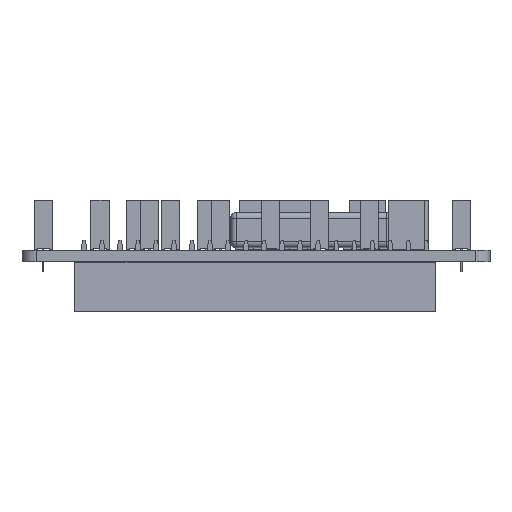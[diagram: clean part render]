
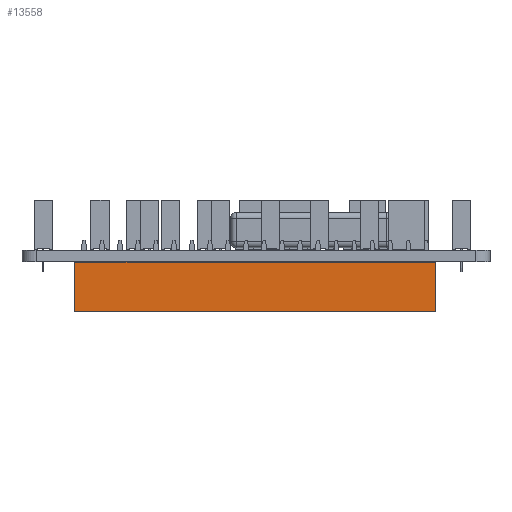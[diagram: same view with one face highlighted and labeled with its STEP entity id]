
A CAD part, left-side view. The second image highlights one B-rep face of the part: STEP entity #13558.
In plain terms, the highlighted planar face has unit normal (-1, 0, 0).
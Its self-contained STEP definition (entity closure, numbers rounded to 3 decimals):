
#152 = PLANE('',#153);
#153 = AXIS2_PLACEMENT_3D('',#154,#155,#156);
#154 = CARTESIAN_POINT('',(-3.81,-49.53,0.));
#155 = DIRECTION('',(0.,1.,0.));
#156 = DIRECTION('',(1.,0.,0.));
#180 = PLANE('',#181);
#181 = AXIS2_PLACEMENT_3D('',#182,#183,#184);
#182 = CARTESIAN_POINT('',(1.27,-49.53,7.));
#183 = DIRECTION('',(-0.,0.,-1.));
#184 = DIRECTION('',(0.,-1.,-0.));
#208 = PLANE('',#209);
#209 = AXIS2_PLACEMENT_3D('',#210,#211,#212);
#210 = CARTESIAN_POINT('',(1.27,1.27,0.));
#211 = DIRECTION('',(0.,-1.,0.));
#212 = DIRECTION('',(-1.,0.,0.));
#250 = VERTEX_POINT('',#251);
#251 = CARTESIAN_POINT('',(-3.81,-49.53,0.));
#267 = PLANE('',#268);
#268 = AXIS2_PLACEMENT_3D('',#269,#270,#271);
#269 = CARTESIAN_POINT('',(1.27,-49.53,0.));
#270 = DIRECTION('',(-0.,0.,-1.));
#271 = DIRECTION('',(0.,-1.,-0.));
#279 = EDGE_CURVE('',#250,#280,#282,.T.);
#280 = VERTEX_POINT('',#281);
#281 = CARTESIAN_POINT('',(-3.81,-49.53,7.));
#282 = SURFACE_CURVE('',#283,(#287,#294),.PCURVE_S1.);
#283 = LINE('',#284,#285);
#284 = CARTESIAN_POINT('',(-3.81,-49.53,0.));
#285 = VECTOR('',#286,1.);
#286 = DIRECTION('',(0.,0.,1.));
#287 = PCURVE('',#152,#288);
#288 = DEFINITIONAL_REPRESENTATION('',(#289),#293);
#289 = LINE('',#290,#291);
#290 = CARTESIAN_POINT('',(0.,0.));
#291 = VECTOR('',#292,1.);
#292 = DIRECTION('',(0.,-1.));
#293 = ( GEOMETRIC_REPRESENTATION_CONTEXT(2) 
PARAMETRIC_REPRESENTATION_CONTEXT() REPRESENTATION_CONTEXT('2D SPACE',''
  ) );
#294 = PCURVE('',#295,#300);
#295 = PLANE('',#296);
#296 = AXIS2_PLACEMENT_3D('',#297,#298,#299);
#297 = CARTESIAN_POINT('',(-3.81,1.27,0.));
#298 = DIRECTION('',(1.,0.,0.));
#299 = DIRECTION('',(0.,-1.,0.));
#300 = DEFINITIONAL_REPRESENTATION('',(#301),#305);
#301 = LINE('',#302,#303);
#302 = CARTESIAN_POINT('',(50.8,0.));
#303 = VECTOR('',#304,1.);
#304 = DIRECTION('',(0.,-1.));
#305 = ( GEOMETRIC_REPRESENTATION_CONTEXT(2) 
PARAMETRIC_REPRESENTATION_CONTEXT() REPRESENTATION_CONTEXT('2D SPACE',''
  ) );
#462 = VERTEX_POINT('',#463);
#463 = CARTESIAN_POINT('',(-3.81,1.27,7.));
#484 = EDGE_CURVE('',#485,#462,#487,.T.);
#485 = VERTEX_POINT('',#486);
#486 = CARTESIAN_POINT('',(-3.81,1.27,0.));
#487 = SURFACE_CURVE('',#488,(#492,#499),.PCURVE_S1.);
#488 = LINE('',#489,#490);
#489 = CARTESIAN_POINT('',(-3.81,1.27,0.));
#490 = VECTOR('',#491,1.);
#491 = DIRECTION('',(0.,0.,1.));
#492 = PCURVE('',#208,#493);
#493 = DEFINITIONAL_REPRESENTATION('',(#494),#498);
#494 = LINE('',#495,#496);
#495 = CARTESIAN_POINT('',(5.08,0.));
#496 = VECTOR('',#497,1.);
#497 = DIRECTION('',(0.,-1.));
#498 = ( GEOMETRIC_REPRESENTATION_CONTEXT(2) 
PARAMETRIC_REPRESENTATION_CONTEXT() REPRESENTATION_CONTEXT('2D SPACE',''
  ) );
#499 = PCURVE('',#295,#500);
#500 = DEFINITIONAL_REPRESENTATION('',(#501),#505);
#501 = LINE('',#502,#503);
#502 = CARTESIAN_POINT('',(0.,0.));
#503 = VECTOR('',#504,1.);
#504 = DIRECTION('',(0.,-1.));
#505 = ( GEOMETRIC_REPRESENTATION_CONTEXT(2) 
PARAMETRIC_REPRESENTATION_CONTEXT() REPRESENTATION_CONTEXT('2D SPACE',''
  ) );
#629 = EDGE_CURVE('',#462,#280,#630,.T.);
#630 = SURFACE_CURVE('',#631,(#635,#642),.PCURVE_S1.);
#631 = LINE('',#632,#633);
#632 = CARTESIAN_POINT('',(-3.81,1.27,7.));
#633 = VECTOR('',#634,1.);
#634 = DIRECTION('',(0.,-1.,0.));
#635 = PCURVE('',#180,#636);
#636 = DEFINITIONAL_REPRESENTATION('',(#637),#641);
#637 = LINE('',#638,#639);
#638 = CARTESIAN_POINT('',(-50.8,5.08));
#639 = VECTOR('',#640,1.);
#640 = DIRECTION('',(1.,0.));
#641 = ( GEOMETRIC_REPRESENTATION_CONTEXT(2) 
PARAMETRIC_REPRESENTATION_CONTEXT() REPRESENTATION_CONTEXT('2D SPACE',''
  ) );
#642 = PCURVE('',#295,#643);
#643 = DEFINITIONAL_REPRESENTATION('',(#644),#648);
#644 = LINE('',#645,#646);
#645 = CARTESIAN_POINT('',(0.,-7.));
#646 = VECTOR('',#647,1.);
#647 = DIRECTION('',(1.,0.));
#648 = ( GEOMETRIC_REPRESENTATION_CONTEXT(2) 
PARAMETRIC_REPRESENTATION_CONTEXT() REPRESENTATION_CONTEXT('2D SPACE',''
  ) );
#5236 = EDGE_CURVE('',#485,#250,#5237,.T.);
#5237 = SURFACE_CURVE('',#5238,(#5242,#5249),.PCURVE_S1.);
#5238 = LINE('',#5239,#5240);
#5239 = CARTESIAN_POINT('',(-3.81,1.27,0.));
#5240 = VECTOR('',#5241,1.);
#5241 = DIRECTION('',(0.,-1.,0.));
#5242 = PCURVE('',#267,#5243);
#5243 = DEFINITIONAL_REPRESENTATION('',(#5244),#5248);
#5244 = LINE('',#5245,#5246);
#5245 = CARTESIAN_POINT('',(-50.8,5.08));
#5246 = VECTOR('',#5247,1.);
#5247 = DIRECTION('',(1.,0.));
#5248 = ( GEOMETRIC_REPRESENTATION_CONTEXT(2) 
PARAMETRIC_REPRESENTATION_CONTEXT() REPRESENTATION_CONTEXT('2D SPACE',''
  ) );
#5249 = PCURVE('',#295,#5250);
#5250 = DEFINITIONAL_REPRESENTATION('',(#5251),#5255);
#5251 = LINE('',#5252,#5253);
#5252 = CARTESIAN_POINT('',(0.,0.));
#5253 = VECTOR('',#5254,1.);
#5254 = DIRECTION('',(1.,0.));
#5255 = ( GEOMETRIC_REPRESENTATION_CONTEXT(2) 
PARAMETRIC_REPRESENTATION_CONTEXT() REPRESENTATION_CONTEXT('2D SPACE',''
  ) );
#13558 = ADVANCED_FACE('',(#13559),#295,.F.);
#13559 = FACE_BOUND('',#13560,.F.);
#13560 = EDGE_LOOP('',(#13561,#13562,#13563,#13564));
#13561 = ORIENTED_EDGE('',*,*,#484,.T.);
#13562 = ORIENTED_EDGE('',*,*,#629,.T.);
#13563 = ORIENTED_EDGE('',*,*,#279,.F.);
#13564 = ORIENTED_EDGE('',*,*,#5236,.F.);
